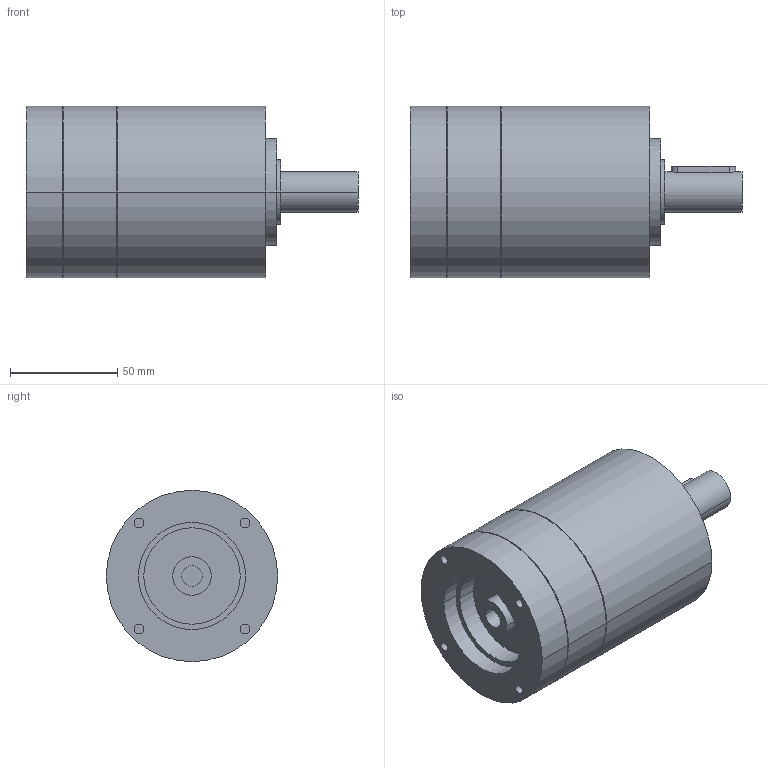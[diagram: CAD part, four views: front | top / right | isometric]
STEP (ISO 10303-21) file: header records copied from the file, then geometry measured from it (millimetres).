
FILE_DESCRIPTION(('CoCreate Modeling STEP Export'),'2;1');
FILE_NAME('GPR100_ig-3-4-5-6_19_B14_9.52_P15.stp','2014-08-26T10:09:43',(''),(''),'CoCreate Modeling STEP processor for AP214 (Solid Model)','CoCreate Modeling 16.00C 25-Feb-2009 (C) Parametric Technology GmbH','');
FILE_SCHEMA(('AUTOMOTIVE_DESIGN { 1 0 10303 214 1 1 1 1 }'));
Length unit declared in the file: millimetre
Products named in the file (2): GPR100_ig-3-4-5-6_19_B14_9.52_P15
Assembly tree (1 placements, depth 2):
  GPR100_ig-3-4-5-6_19_B14_9.52_P15
    GPR100_ig-3-4-5-6_19_B14_9.52_P15
Bounding box: 155 x 80 x 80 mm (x, y, z)
Volume: 551369.8 mm3; surface area: 48571.2 mm2
Topology: 1 solids, 1 shells, 80 faces, 201 edges, 143 vertices
Faces by surface type: cylinder 48, plane 26, cone 6
Entity records: 2026 total; most frequent: ORIENTED_EDGE 398, CARTESIAN_POINT 369, DIRECTION 264, EDGE_CURVE 199, VERTEX_POINT 143, AXIS2_PLACEMENT_3D 102, EDGE_LOOP 102, FACE_OUTER_BOUND 80
